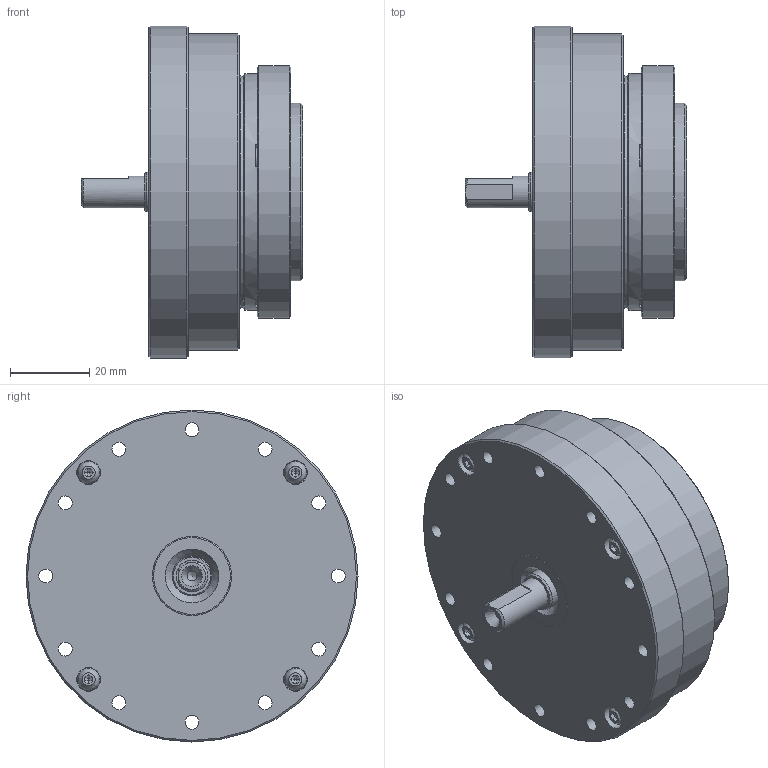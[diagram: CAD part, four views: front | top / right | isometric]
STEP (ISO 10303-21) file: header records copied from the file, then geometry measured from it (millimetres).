
FILE_DESCRIPTION (( 'STEP AP203' ), '1' );
FILE_NAME ('LHS-17-XXX-C-IV.STEP', '2025-01-07T06:01:22', ( '' ), ( '' ), 'SwSTEP 2.0', 'SolidWorks 2023', '' );
FILE_SCHEMA (( 'CONFIG_CONTROL_DESIGN' ));
Length unit declared in the file: metre
Products named in the file (1): LHS-17-XXX-C-IV
Bounding box: 56 x 84 x 84 mm (x, y, z)
Volume: 121038.9 mm3; surface area: 99024 mm2
Topology: 64 solids, 64 shells, 1200 faces, 2932 edges, 1852 vertices
Faces by surface type: plane 552, cylinder 337, bspline 173, cone 138
Full cylindrical faces by diameter (mm): 1.6 x12, 2 x14, 2.4 x4, 2.5 x38, 3 x12, 3.5 x68, 3.7 x16, 3.8 x12, 4.5 x8, 5.5 x4, 6 x8, 7 x2, 8 x1, 9.5 x2, 10 x4, 10.333 x2, 12 x1, 13 x1, 13.667 x2, 14 x2, 14.4 x1, 14.5 x1, 17 x2, 17.4 x1, 18 x4, 20 x2, 22 x3, 23 x1, 27 x2, 29 x1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
Entity records: 39221 total; most frequent: CARTESIAN_POINT 14191, DIRECTION 5020, ORIENTED_EDGE 4538, EDGE_CURVE 2269, AXIS2_PLACEMENT_3D 2127, EDGE_LOOP 1995, VERTEX_POINT 1688, FACE_OUTER_BOUND 1544
